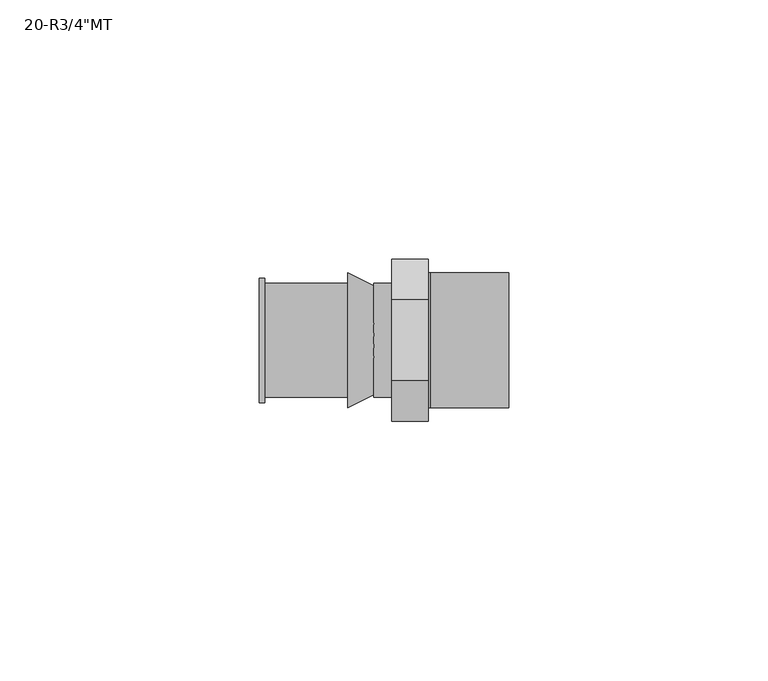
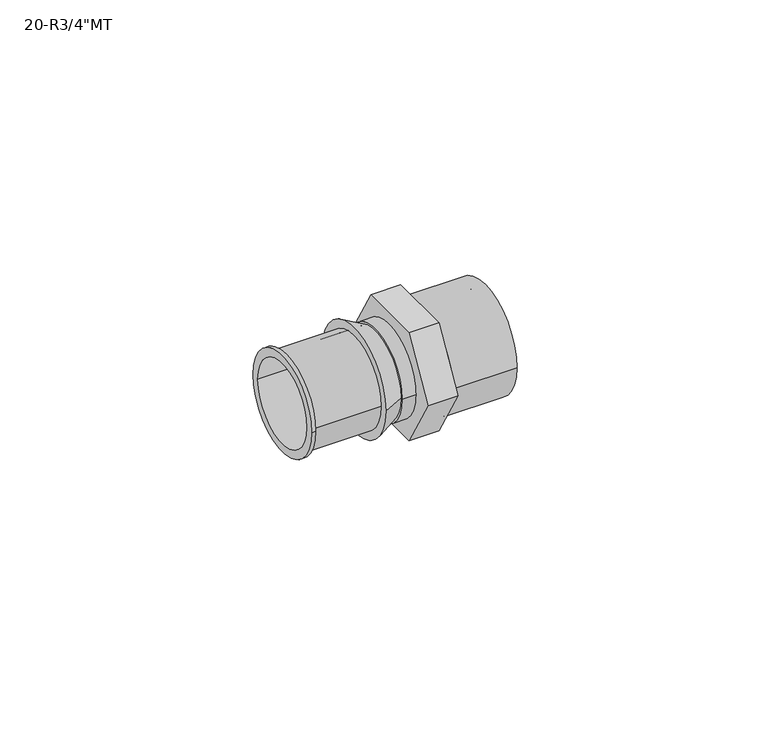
"""IFC4 building model written with IfcOpenShell, lengths in millimetres: pipe fitting geometry."""

from ifc_helpers import new_model, si_unit, point, frame, origin, origin_2d, place, context, project, spatial, polyline, circle_curve, trimmed, segment, composite_curve, outline, extrude, source, transform, mapped, element, save
from ifc_brep_helpers import plane_surface, cylinder_surface, revolved_surface, advanced_brep


def pipe_fitting_c7017445(model_context):
    return source(origin(), model_context, "Body", "SolidModel", [
        advanced_brep(
        [(-3.5, -15.5884573, 0.0), (-3.5, -7.7942286, 13.5), (-3.5, 7.7942286, 13.5), (-3.5, 15.5884573, 0.0), (-3.5, 7.7942286, -13.5), (-3.5, -7.7942286, -13.5), (3.5, -15.5884573, 0.0), (3.5, -7.7942286, -13.5), (3.5, 7.7942286, -13.5), (3.5, 15.5884573, 0.0), (3.5, 7.7942286, 13.5), (3.5, -7.7942286, 13.5), (3.5, -13.0, 0.0), (3.5, 13.0, 0.0), (19.0, -13.0, 0.0), (19.0, 13.0, 0.0), (19.0, -10.0, 0.0), (19.0, 10.0, 0.0), (4.0, 13.0, 0.0), (4.0, -13.0, 0.0), (4.0, 10.0, 0.0), (4.0, -10.0, 0.0)],
        [
            (0, 1),
            (1, 2),
            (2, 3),
            (3, 4),
            (4, 5),
            (5, 0),
            (6, 7),
            (7, 8),
            (8, 9),
            (9, 10),
            (10, 11),
            (11, 6),
            (12, 13, circle_curve(frame((3.5, 0.0, 0.0), z_axis=(-1.0, 0.0, 0.0), x_axis=(0.0, 1.0, 0.0)), 13.0)),
            (13, 12, circle_curve(frame((3.5, 0.0, 0.0), z_axis=(-1.0, 0.0, 0.0), x_axis=(0.0, 1.0, 0.0)), 13.0)),
            (0, 6),
            (11, 1),
            (10, 2),
            (9, 3),
            (8, 4),
            (7, 5),
            (14, 15, circle_curve(frame((19.0, 0.0, 0.0), z_axis=(1.0, 0.0, 0.0), x_axis=(0.0, 1.0, 0.0)), 13.0)),
            (15, 14, circle_curve(frame((19.0, 0.0, 0.0), z_axis=(1.0, 0.0, 0.0), x_axis=(0.0, 1.0, 0.0)), 13.0)),
            (16, 17, circle_curve(frame((19.0, 0.0, 0.0), z_axis=(-1.0, 0.0, 0.0), x_axis=(0.0, 1.0, 0.0)), 10.0)),
            (17, 16, circle_curve(frame((19.0, 0.0, 0.0), z_axis=(-1.0, 0.0, 0.0), x_axis=(0.0, 1.0, 0.0)), 10.0)),
            (15, 18),
            (18, 19, circle_curve(frame((4.0, 0.0, 0.0), z_axis=(1.0, 0.0, 0.0), x_axis=(0.0, 1.0, 0.0)), 13.0)),
            (19, 14),
            (19, 18, circle_curve(frame((4.0, 0.0, 0.0), z_axis=(1.0, 0.0, 0.0), x_axis=(0.0, 1.0, 0.0)), 13.0)),
            (17, 20),
            (20, 21, circle_curve(frame((4.0, 0.0, 0.0), z_axis=(-1.0, 0.0, 0.0), x_axis=(0.0, 1.0, 0.0)), 10.0)),
            (21, 16),
            (21, 20, circle_curve(frame((4.0, 0.0, 0.0), z_axis=(-1.0, 0.0, 0.0), x_axis=(0.0, 1.0, 0.0)), 10.0)),
            (12, 19),
            (18, 13),
        ],
        [
            plane_surface(frame((-3.5, 0.0, 0.0), z_axis=(-1.0, 0.0, 0.0), x_axis=(0.0, 0.0, 1.0))),
            plane_surface(frame((3.5, 0.0, 0.0), z_axis=(1.0, 0.0, 0.0), x_axis=(0.0, 0.0, 1.0))),
            plane_surface(frame((-3.5, -15.5884573, 0.0), z_axis=(0.0, -0.8660254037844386, 0.5000000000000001), x_axis=(1.0, 0.0, 0.0))),
            plane_surface(frame((-3.5, -7.7942286, 13.5), z_axis=(0.0, 0.0, 1.0), x_axis=(1.0, 0.0, 0.0))),
            plane_surface(frame((-3.5, 7.7942286, 13.5), z_axis=(0.0, 0.8660254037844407, 0.49999999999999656), x_axis=(1.0, 0.0, 0.0))),
            plane_surface(frame((-3.5, 15.5884573, 0.0), z_axis=(0.0, 0.8660254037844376, -0.500000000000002), x_axis=(1.0, 0.0, 0.0))),
            plane_surface(frame((-3.5, 7.7942286, -13.5), z_axis=(0.0, 0.0, -1.0), x_axis=(1.0, 0.0, 0.0))),
            plane_surface(frame((-3.5, -7.7942286, -13.5), z_axis=(0.0, -0.8660254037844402, -0.49999999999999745), x_axis=(1.0, 0.0, 0.0))),
            plane_surface(frame((19.0, 0.0, 0.0), z_axis=(1.0, 0.0, 0.0), x_axis=(0.0, 0.0, 1.0))),
            cylinder_surface(frame((4.0, 0.0, 0.0), z_axis=(-1.0, 0.0, 0.0), x_axis=(0.0, 1.0, 0.0)), 13.0),
            revolved_surface(polyline([(19.0, 10.0, 0.0), (4.0, 10.0, 0.0)]), (4.0, 0.0, 0.0), (1.0, 0.0, 0.0)),
            plane_surface(frame((4.0, 0.0, 0.0), z_axis=(1.0, 0.0, 0.0), x_axis=(0.0, 0.0, 1.0))),
            cylinder_surface(frame((0.0, 0.0, 0.0), z_axis=(-1.0, 0.0, 0.0), x_axis=(0.0, 1.0, 0.0)), 13.0),
        ],
        [
            (0, [[1, 2, 3, 4, 5, 6]]),
            (1, [[7, 8, 9, 10, 11, 12], [13, 14]]),
            (2, [[-1, 15, -12, 16]]),
            (3, [[-2, -16, -11, 17]]),
            (4, [[-3, -17, -10, 18]]),
            (5, [[-4, -18, -9, 19]]),
            (6, [[-5, -19, -8, 20]]),
            (7, [[-6, -20, -7, -15]]),
            (8, [[21, 22], [23, 24]]),
            (9, [[-22, 25, 26, 27]]),
            (9, [[-21, -27, 28, -25]]),
            (10, [[-24, 29, 30, 31]]),
            (10, [[-23, -31, 32, -29]]),
            (11, [[-30, -32]]),
            (12, [[33, -26, 34, -13]]),
            (12, [[-33, -14, -34, -28]]),
        ],
    ),
        advanced_brep(
        [(-29.0, -12.0, 0.0), (-29.0, 12.0, 0.0), (-29.0, -10.0, 0.0), (-29.0, 10.0, 0.0), (-12.0, -11.0, 0.0), (-12.0, 11.0, 0.0), (-12.0, -10.0, 0.0), (-12.0, 10.0, 0.0), (-28.0, 11.0, 0.0), (-28.0, -11.0, 0.0), (-28.0, -12.0, 0.0), (-28.0, 12.0, 0.0)],
        [
            (0, 1, circle_curve(frame((-29.0, 0.0, 0.0), z_axis=(-1.0, 0.0, 0.0), x_axis=(0.0, 1.0, 0.0)), 12.0)),
            (1, 0, circle_curve(frame((-29.0, 0.0, 0.0), z_axis=(-1.0, 0.0, 0.0), x_axis=(0.0, 1.0, 0.0)), 12.0)),
            (2, 3, circle_curve(frame((-29.0, 0.0, 0.0), z_axis=(1.0, 0.0, 0.0), x_axis=(0.0, 1.0, 0.0)), 10.0)),
            (3, 2, circle_curve(frame((-29.0, 0.0, 0.0), z_axis=(1.0, 0.0, 0.0), x_axis=(0.0, 1.0, 0.0)), 10.0)),
            (4, 5, circle_curve(frame((-12.0, 0.0, 0.0), z_axis=(1.0, 0.0, 0.0), x_axis=(0.0, 1.0, 0.0)), 11.0)),
            (5, 4, circle_curve(frame((-12.0, 0.0, 0.0), z_axis=(1.0, 0.0, 0.0), x_axis=(0.0, 1.0, 0.0)), 11.0)),
            (6, 7, circle_curve(frame((-12.0, 0.0, 0.0), z_axis=(-1.0, 0.0, 0.0), x_axis=(0.0, 1.0, 0.0)), 10.0)),
            (7, 6, circle_curve(frame((-12.0, 0.0, 0.0), z_axis=(-1.0, 0.0, 0.0), x_axis=(0.0, 1.0, 0.0)), 10.0)),
            (2, 6),
            (7, 3),
            (5, 8),
            (8, 9, circle_curve(frame((-28.0, 0.0, 0.0), z_axis=(1.0, 0.0, 0.0), x_axis=(0.0, 1.0, 0.0)), 11.0)),
            (9, 4),
            (9, 8, circle_curve(frame((-28.0, 0.0, 0.0), z_axis=(1.0, 0.0, 0.0), x_axis=(0.0, 1.0, 0.0)), 11.0)),
            (10, 11, circle_curve(frame((-28.0, 0.0, 0.0), z_axis=(1.0, 0.0, 0.0), x_axis=(0.0, 1.0, 0.0)), 12.0)),
            (11, 10, circle_curve(frame((-28.0, 0.0, 0.0), z_axis=(1.0, 0.0, 0.0), x_axis=(0.0, 1.0, 0.0)), 12.0)),
            (0, 10),
            (11, 1),
        ],
        [
            plane_surface(frame((-29.0, 0.0, 0.0), z_axis=(-1.0, 0.0, 0.0), x_axis=(0.0, 0.0, 1.0))),
            plane_surface(frame((-12.0, 0.0, 0.0), z_axis=(1.0, 0.0, 0.0), x_axis=(0.0, 0.0, 1.0))),
            revolved_surface(polyline([(-12.0, 10.0, 0.0), (-29.0, 10.0, 0.0)]), (-29.0, 0.0, 0.0), (1.0, 0.0, 0.0)),
            cylinder_surface(frame((-29.0, 0.0, 0.0), z_axis=(-1.0, 0.0, 0.0), x_axis=(0.0, 1.0, 0.0)), 11.0),
            plane_surface(frame((-28.0, 0.0, 0.0), z_axis=(1.0, 0.0, 0.0), x_axis=(0.0, 0.0, 1.0))),
            cylinder_surface(frame((-29.0, 0.0, 0.0), z_axis=(-1.0, 0.0, 0.0), x_axis=(0.0, 1.0, 0.0)), 12.0),
        ],
        [
            (0, [[1, 2], [3, 4]]),
            (1, [[5, 6], [7, 8]]),
            (2, [[-3, 9, -8, 10]]),
            (2, [[-4, -10, -7, -9]]),
            (3, [[-6, 11, 12, 13]]),
            (3, [[-5, -13, 14, -11]]),
            (4, [[15, 16], [-12, -14]]),
            (5, [[-1, 17, -16, 18]]),
            (5, [[-2, -18, -15, -17]]),
        ],
    ),
        advanced_brep(
        [(-7.0, -10.5, 0.0), (-7.0, 10.5, 0.0), (-7.0, 10.0, 0.0), (-7.0, -10.0, 0.0), (-12.0, -13.0, 0.0), (-12.0, 13.0, 0.0), (-12.0, -10.0, 0.0), (-12.0, 10.0, 0.0)],
        [
            (0, 1, circle_curve(frame((-7.0, 0.0, 0.0), z_axis=(1.0, 0.0, 0.0), x_axis=(0.0, -1.0, 0.0)), 10.5)),
            (1, 0, circle_curve(frame((-7.0, 0.0, 0.0), z_axis=(1.0, 0.0, 0.0), x_axis=(0.0, 1.0, 0.0)), 10.5)),
            (2, 3, circle_curve(frame((-7.0, 0.0, 0.0), z_axis=(-1.0, 0.0, 0.0), x_axis=(0.0, 1.0, 0.0)), 10.0)),
            (3, 2, circle_curve(frame((-7.0, 0.0, 0.0), z_axis=(-1.0, 0.0, 0.0), x_axis=(0.0, 1.0, 0.0)), 10.0)),
            (4, 5, circle_curve(frame((-12.0, 0.0, 0.0), z_axis=(-1.0, 0.0, 0.0), x_axis=(0.0, 1.0, 0.0)), 13.0)),
            (5, 4, circle_curve(frame((-12.0, 0.0, 0.0), z_axis=(-1.0, 0.0, 0.0), x_axis=(0.0, -1.0, 0.0)), 13.0)),
            (6, 7, circle_curve(frame((-12.0, 0.0, 0.0), z_axis=(1.0, 0.0, 0.0), x_axis=(0.0, 1.0, 0.0)), 10.0)),
            (7, 6, circle_curve(frame((-12.0, 0.0, 0.0), z_axis=(1.0, 0.0, 0.0), x_axis=(0.0, 1.0, 0.0)), 10.0)),
            (0, 4),
            (5, 1),
            (2, 7),
            (6, 3),
        ],
        [
            plane_surface(frame((-7.0, 0.0, 0.0), z_axis=(1.0, 0.0, 0.0), x_axis=(0.0, 0.0, -1.0))),
            plane_surface(frame((-12.0, 0.0, 0.0), z_axis=(-1.0, 0.0, 0.0), x_axis=(0.0, 0.0, -1.0))),
            revolved_surface(polyline([(-7.0, -10.5, 0.0), (-12.0, -13.0, 0.0)]), (14.0, 0.0, 0.0), (-1.0, 0.0, 0.0)),
            revolved_surface(polyline([(-7.0, 10.5, 0.0), (-12.0, 13.0, 0.0)]), (14.0, 0.0, 0.0), (-1.0, 0.0, 0.0)),
            revolved_surface(polyline([(-7.0, 10.0, 0.0), (-12.0, 10.0, 0.0)]), (-12.0, 0.0, 0.0), (1.0, 0.0, 0.0)),
        ],
        [
            (0, [[1, 2], [3, 4]]),
            (1, [[5, 6], [7, 8]]),
            (2, [[-1, 9, -6, 10]]),
            (3, [[-2, -10, -5, -9]]),
            (4, [[11, -7, 12, -3]]),
            (4, [[-11, -4, -12, -8]]),
        ],
    ),
        extrude(outline(composite_curve([segment(trimmed(circle_curve(origin_2d(), 11.0), [point((-11.0, 0.0))], [point((11.0, 0.0))], False, "CARTESIAN"), True, "CONTINUOUS"), segment(trimmed(circle_curve(origin_2d(), 11.0), [point((11.0, 0.0))], [point((-11.0, 0.0))], False, "CARTESIAN"), True, "CONTINUOUS")], self_intersect=False)), frame((-7.0, 0.0, 0.0), z_axis=(1.0, 0.0, 0.0), x_axis=(0.0, 1.0, 0.0)), (0.0, 0.0, 1.0), 3.5),
    ])


if __name__ == "__main__":
    model = new_model("IFC4")
    model_context = context("Model", 3, world=origin())
    ifc_project = project(units=[si_unit("LENGTHUNIT", "METRE", prefix="MILLI")], contexts=[model_context])
    site = spatial("IfcSite", under=ifc_project)
    building = spatial("IfcBuilding", under=site)
    placement = place(None, origin())
    pipe_fitting_shape = pipe_fitting_c7017445(model_context)
    element("IfcPipeFitting", 1, ObjectType="SuperPipe_AdapterMT : 20-R3/4\"MT", at=placement, inside=building, context=model_context, shape_type="MappedRepresentation", body=[
        mapped(pipe_fitting_shape, transform((0.0, 0.0, 0.0), x_axis=(1.0, 0.0, 0.0), y_axis=(0.0, 1.0, 0.0), z_axis=(0.0, 0.0, 1.0))),
    ])
    save(model, "model.ifc")
